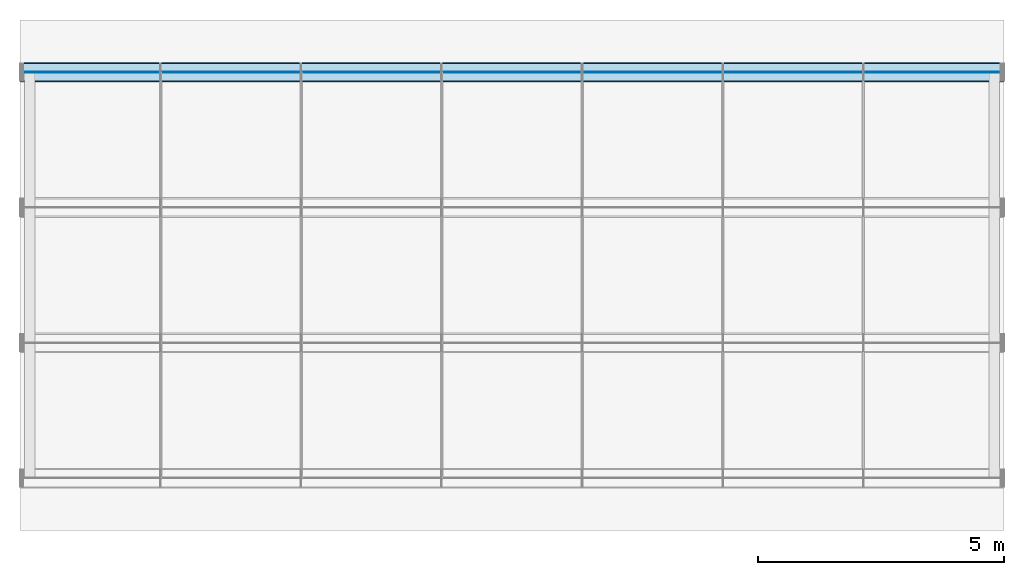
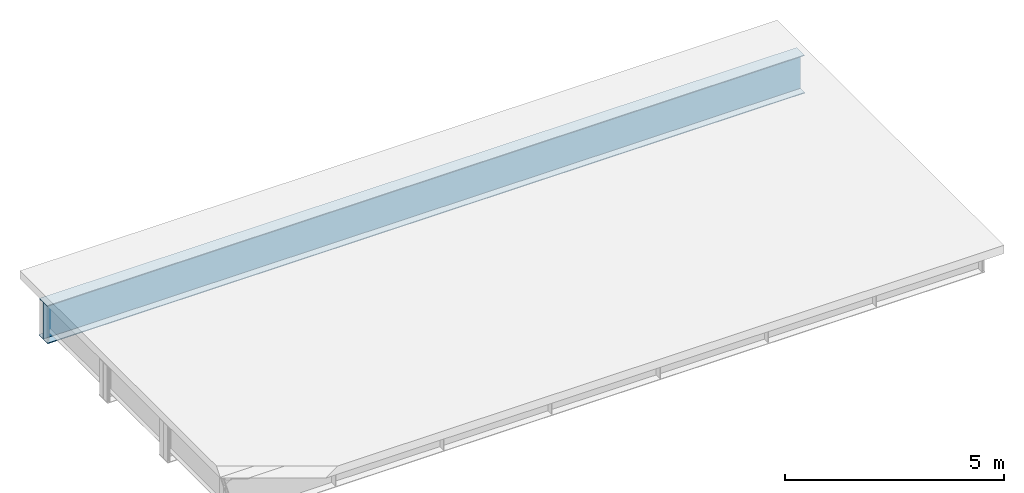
# One storey, part 11 of 12: 3 plates.
"""IFC4 building model written with IfcOpenShell, lengths in metres."""

from ifc_helpers import new_model, si_unit, frame, origin, origin_with_axes, origin_2d_with_axis, place, context, subcontext, project, spatial, rectangle, extrude, element, save


model = new_model("IFC4")

# Units and contexts
model_context = context("Model", 3, precision=1e-05, world=origin())
body_context = subcontext(model_context, "Body", "Model", "MODEL_VIEW")
ifc_project = project(units=[si_unit("LENGTHUNIT", "METRE"), si_unit("AREAUNIT", "SQUARE_METRE"), si_unit("VOLUMEUNIT", "CUBIC_METRE"), si_unit("PLANEANGLEUNIT", "RADIAN")], contexts=[model_context])

# Site, building, storey
site_placement = place(None, origin_with_axes())
site = spatial("IfcSite", under=ifc_project, at=site_placement, Name="Default Site")
building_placement = place(site_placement, origin_with_axes())
building = spatial("IfcBuilding", under=site, at=building_placement, Name="Bridge Structure")
storey_placement = place(building_placement, origin_with_axes())
storey = spatial("IfcBuildingStorey", under=building, at=storey_placement, Name="Superstructure")

# Plates
plate_1_placement = place(storey_placement, frame((0.0, 4.125, 0.0), z_axis=(1.0, 0.0, 0.0), x_axis=(0.0, 1.0, 0.0)))
element("IfcPlate", 1, at=plate_1_placement, inside=storey, Name="Girder Web 4", context=body_context, shape_type="SweptSolid", body=[
    extrude(rectangle(XDim=0.012, YDim=1.01, at=origin_2d_with_axis()), origin_with_axes(), (0.0, 0.0, 1.0), 20.0),
])
plate_2_placement = place(storey_placement, frame((0.0, 4.125, 0.514), z_axis=(1.0, 0.0, 0.0), x_axis=(0.0, 1.0, 0.0)))
element("IfcPlate", 2, at=plate_2_placement, inside=storey, Name="Top Flange 4", context=body_context, shape_type="SweptSolid", body=[
    extrude(rectangle(XDim=0.35000000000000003, YDim=0.018000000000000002, at=origin_2d_with_axis()), origin_with_axes(), (0.0, 0.0, 1.0), 20.0),
])
plate_3_placement = place(storey_placement, frame((0.0, 4.125, -0.516), z_axis=(1.0, 0.0, 0.0), x_axis=(0.0, 1.0, 0.0)))
element("IfcPlate", 3, at=plate_3_placement, inside=storey, Name="Bottom Flange 4", context=body_context, shape_type="SweptSolid", body=[
    extrude(rectangle(XDim=0.4, YDim=0.022, at=origin_2d_with_axis()), origin_with_axes(), (0.0, 0.0, 1.0), 20.0),
])

save(model, "model.ifc")
